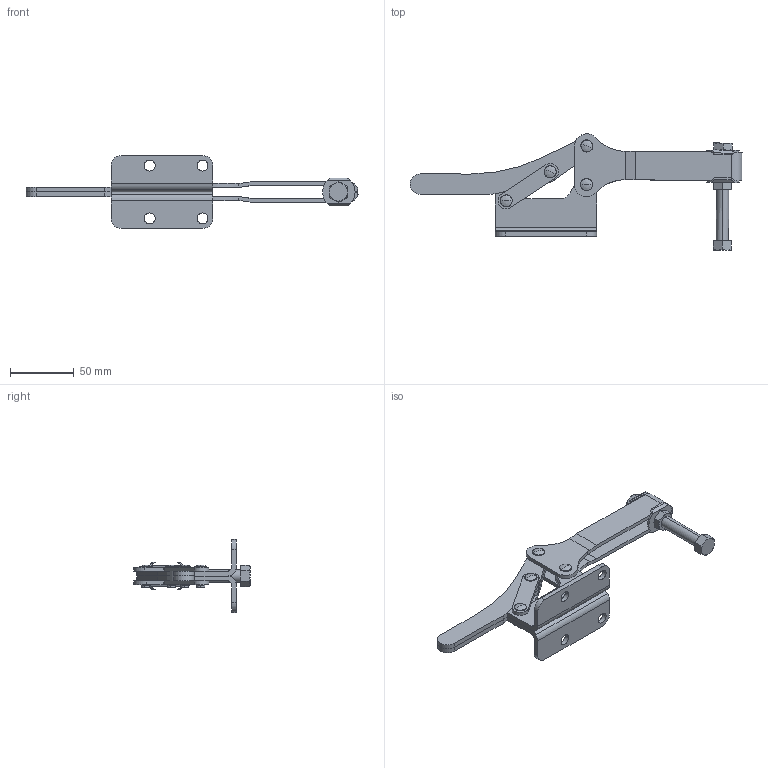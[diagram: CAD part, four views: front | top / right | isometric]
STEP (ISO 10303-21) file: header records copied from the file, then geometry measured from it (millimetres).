
FILE_DESCRIPTION((''),'2;1');
FILE_NAME('C:\lapeer-mfg\600\H-600\H-601.stp','2005-03-28T18:49:57',('rtaylor'),(''),'Autodesk Inventor 9','Autodesk Inventor 9','');
FILE_SCHEMA(('CONFIG_CONTROL_DESIGN'));
Length unit declared in the file: inch
Products named in the file (11): H-601; 100038; 150037; 120114L; 120114R; 130002; 110121; 470600; 8 - 16 - 3; 8 - 16; 171124
Assembly tree (18 placements, depth 3):
  H-601
    100038  x2
    150037  x4
    120114L
    120114R
    130002  x2
    110121  x2
    470600
      8 - 16 - 3
      8 - 16  x2
      171124  x2
Bounding box: 259.47 x 90.94 x 57.15 mm (x, y, z)
Volume: 87092.4 mm3; surface area: 60253.5 mm2
Topology: 17 solids, 17 shells, 345 faces, 872 edges, 562 vertices
Faces by surface type: cylinder 109, plane 100, bspline 62, cone 50, torus 16, sphere 8
Entity records: 8282 total; most frequent: CARTESIAN_POINT 1870, DIRECTION 1032, ORIENTED_EDGE 992, EDGE_CURVE 496, AXIS2_PLACEMENT_3D 404, VERTEX_POINT 322, EDGE_LOOP 230, VECTOR 224
